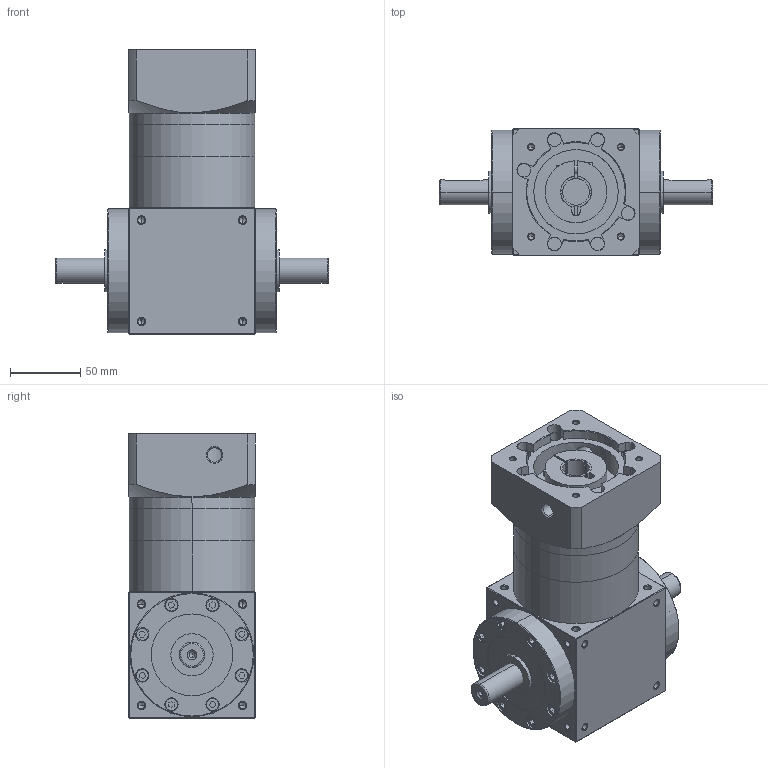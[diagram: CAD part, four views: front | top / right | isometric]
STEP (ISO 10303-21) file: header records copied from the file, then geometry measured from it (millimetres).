
FILE_DESCRIPTION (( 'STEP AP203' ), '1' );
FILE_NAME ('AT090-FL-L2-19-70-90M5.STEP', '2025-12-05T01:45:33', ( 'Windows User' ), ( 'P R C' ), 'SwSTEP 2.0', 'SolidWorks 2016', '' );
FILE_SCHEMA (( 'CONFIG_CONTROL_DESIGN' ));
Length unit declared in the file: millimetre
Products named in the file (6): AT090-FL-L2-19-70-90M5; AT90-转角箱体-双轴-输出; AT90蛌倰怀堤楊擘; AT90单级齿圈; AT90-输入法兰-A-70-M5-90; 输入胀套-22
Assembly tree (5 placements, depth 2):
  AT090-FL-L2-19-70-90M5
    AT90-转角箱体-双轴-输出
    AT90蛌倰怀堤楊擘
    AT90单级齿圈
    AT90-输入法兰-A-70-M5-90
    输入胀套-22
Bounding box: 194 x 90 x 202 mm (x, y, z)
Volume: 1220592.9 mm3; surface area: 202980.7 mm2
Topology: 5 solids, 17 shells, 1423 faces, 3597 edges, 2259 vertices
Faces by surface type: plane 693, cylinder 321, cone 240, bspline 169
Entity records: 49964 total; most frequent: CARTESIAN_POINT 16753, ORIENTED_EDGE 7002, DIRECTION 6180, EDGE_CURVE 3501, VERTEX_POINT 2259, LINE 2256, VECTOR 2256, AXIS2_PLACEMENT_3D 1962
